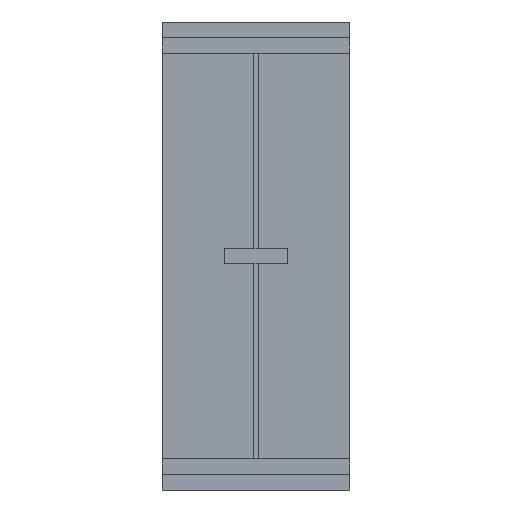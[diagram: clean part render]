
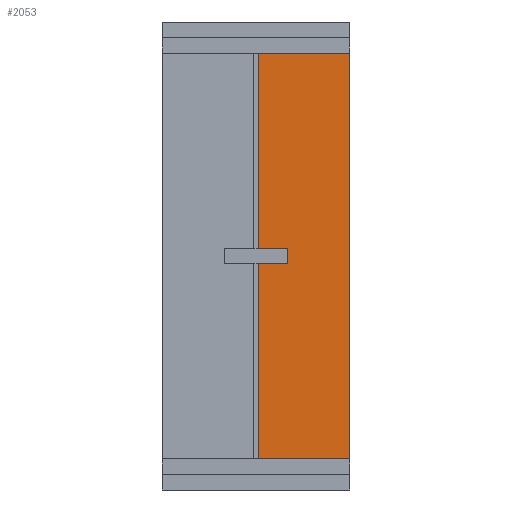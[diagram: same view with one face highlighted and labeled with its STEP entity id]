
A CAD part, front view. The second image highlights one B-rep face of the part: STEP entity #2053.
In plain terms, the highlighted planar face has unit normal (0, -1, 0).
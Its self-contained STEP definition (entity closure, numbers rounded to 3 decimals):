
#1 = VERTEX_POINT ( 'NONE', #2028 ) ;
#10 = EDGE_CURVE ( 'NONE', #2305, #1238, #2679, .T. ) ;
#44 = CARTESIAN_POINT ( 'NONE',  ( 0., 345., 0. ) ) ;
#54 = CARTESIAN_POINT ( 'NONE',  ( 600., 345., 2700. ) ) ;
#104 = EDGE_CURVE ( 'NONE', #167, #1798, #1241, .T. ) ;
#111 = EDGE_CURVE ( 'NONE', #703, #1798, #624, .T. ) ;
#164 = ORIENTED_EDGE ( 'NONE', *, *, #321, .F. ) ;
#167 = VERTEX_POINT ( 'NONE', #1247 ) ;
#236 = DIRECTION ( 'NONE',  ( -1., 0., 0. ) ) ;
#293 = CARTESIAN_POINT ( 'NONE',  ( 15., 345., 1450. ) ) ;
#318 = VECTOR ( 'NONE', #2074, 1000. ) ;
#321 = EDGE_CURVE ( 'NONE', #1959, #1154, #1584, .T. ) ;
#334 = DIRECTION ( 'NONE',  ( 0., 0., -1. ) ) ;
#398 = EDGE_CURVE ( 'NONE', #542, #1959, #1395, .T. ) ;
#471 = VERTEX_POINT ( 'NONE', #2227 ) ;
#497 = VECTOR ( 'NONE', #1521, 1000. ) ;
#542 = VERTEX_POINT ( 'NONE', #1190 ) ;
#566 = LINE ( 'NONE', #1382, #1080 ) ;
#590 = CARTESIAN_POINT ( 'NONE',  ( 15., 345., 65. ) ) ;
#602 = CARTESIAN_POINT ( 'NONE',  ( 200., 345., 1450. ) ) ;
#624 = LINE ( 'NONE', #1259, #1102 ) ;
#652 = CARTESIAN_POINT ( 'NONE',  ( 590., 345., 2735. ) ) ;
#676 = CARTESIAN_POINT ( 'NONE',  ( 15., 345., 65. ) ) ;
#703 = VERTEX_POINT ( 'NONE', #1711 ) ;
#713 = LINE ( 'NONE', #1550, #1541 ) ;
#746 = EDGE_CURVE ( 'NONE', #1, #2661, #713, .T. ) ;
#766 = LINE ( 'NONE', #2379, #2442 ) ;
#802 = ORIENTED_EDGE ( 'NONE', *, *, #746, .F. ) ;
#807 = DIRECTION ( 'NONE',  ( 0., 0., 1. ) ) ;
#822 = CARTESIAN_POINT ( 'NONE',  ( -590., 345., 2735. ) ) ;
#841 = CARTESIAN_POINT ( 'NONE',  ( 200., 345., 1450. ) ) ;
#843 = ORIENTED_EDGE ( 'NONE', *, *, #111, .T. ) ;
#865 = ORIENTED_EDGE ( 'NONE', *, *, #2093, .F. ) ;
#896 = VECTOR ( 'NONE', #2655, 1000. ) ;
#917 = DIRECTION ( 'NONE',  ( 0., 0., -1. ) ) ;
#947 = VECTOR ( 'NONE', #807, 1000. ) ;
#969 = CARTESIAN_POINT ( 'NONE',  ( -590., 345., 65. ) ) ;
#1042 = DIRECTION ( 'NONE',  ( 0., 1., 0. ) ) ;
#1055 = VECTOR ( 'NONE', #917, 1000. ) ;
#1080 = VECTOR ( 'NONE', #1424, 1000. ) ;
#1102 = VECTOR ( 'NONE', #236, 1000. ) ;
#1106 = EDGE_CURVE ( 'NONE', #2661, #542, #2324, .T. ) ;
#1154 = VERTEX_POINT ( 'NONE', #1276 ) ;
#1190 = CARTESIAN_POINT ( 'NONE',  ( 600., 345., 100. ) ) ;
#1208 = CARTESIAN_POINT ( 'NONE',  ( 590., 345., 100. ) ) ;
#1230 = ORIENTED_EDGE ( 'NONE', *, *, #2224, .F. ) ;
#1238 = VERTEX_POINT ( 'NONE', #293 ) ;
#1241 = LINE ( 'NONE', #676, #1454 ) ;
#1247 = CARTESIAN_POINT ( 'NONE',  ( 15., 345., 65. ) ) ;
#1253 = PLANE ( 'NONE',  #1425 ) ;
#1259 = CARTESIAN_POINT ( 'NONE',  ( 200., 345., 1350. ) ) ;
#1276 = CARTESIAN_POINT ( 'NONE',  ( 590., 345., 65. ) ) ;
#1297 = EDGE_CURVE ( 'NONE', #167, #1154, #2385, .T. ) ;
#1382 = CARTESIAN_POINT ( 'NONE',  ( 590., 345., 2800. ) ) ;
#1389 = ORIENTED_EDGE ( 'NONE', *, *, #2428, .F. ) ;
#1395 = LINE ( 'NONE', #2215, #318 ) ;
#1424 = DIRECTION ( 'NONE',  ( 0., 0., -1. ) ) ;
#1425 = AXIS2_PLACEMENT_3D ( 'NONE', #44, #1042, #1705 ) ;
#1454 = VECTOR ( 'NONE', #2301, 1000. ) ;
#1475 = EDGE_CURVE ( 'NONE', #2305, #703, #766, .T. ) ;
#1517 = ORIENTED_EDGE ( 'NONE', *, *, #104, .F. ) ;
#1521 = DIRECTION ( 'NONE',  ( 0., 0., -1. ) ) ;
#1541 = VECTOR ( 'NONE', #2143, 1000. ) ;
#1550 = CARTESIAN_POINT ( 'NONE',  ( 590., 345., 2700. ) ) ;
#1584 = LINE ( 'NONE', #2620, #1055 ) ;
#1598 = ORIENTED_EDGE ( 'NONE', *, *, #1106, .F. ) ;
#1622 = CARTESIAN_POINT ( 'NONE',  ( 15., 345., 1350. ) ) ;
#1646 = VECTOR ( 'NONE', #1925, 1000. ) ;
#1705 = DIRECTION ( 'NONE',  ( 0., 0., 1. ) ) ;
#1711 = CARTESIAN_POINT ( 'NONE',  ( 200., 345., 1350. ) ) ;
#1751 = ORIENTED_EDGE ( 'NONE', *, *, #10, .F. ) ;
#1798 = VERTEX_POINT ( 'NONE', #1622 ) ;
#1878 = FACE_OUTER_BOUND ( 'NONE', #2355, .T. ) ;
#1925 = DIRECTION ( 'NONE',  ( 1., 0., 0. ) ) ;
#1959 = VERTEX_POINT ( 'NONE', #1208 ) ;
#1992 = ORIENTED_EDGE ( 'NONE', *, *, #1475, .T. ) ;
#2028 = CARTESIAN_POINT ( 'NONE',  ( 590., 345., 2700. ) ) ;
#2053 = ADVANCED_FACE ( 'NONE', ( #1878 ), #1253, .F. ) ;
#2074 = DIRECTION ( 'NONE',  ( -1., 0., 0. ) ) ;
#2093 = EDGE_CURVE ( 'NONE', #471, #2359, #2554, .T. ) ;
#2143 = DIRECTION ( 'NONE',  ( 1., 0., 0. ) ) ;
#2215 = CARTESIAN_POINT ( 'NONE',  ( 600., 345., 100. ) ) ;
#2224 = EDGE_CURVE ( 'NONE', #1238, #471, #2658, .T. ) ;
#2227 = CARTESIAN_POINT ( 'NONE',  ( 15., 345., 2735. ) ) ;
#2301 = DIRECTION ( 'NONE',  ( 0., 0., 1. ) ) ;
#2305 = VERTEX_POINT ( 'NONE', #602 ) ;
#2321 = CARTESIAN_POINT ( 'NONE',  ( 600., 345., 2700. ) ) ;
#2324 = LINE ( 'NONE', #54, #497 ) ;
#2355 = EDGE_LOOP ( 'NONE', ( #865, #1230, #1751, #1992, #843, #1517, #2599, #164, #2635, #1598, #802, #1389 ) ) ;
#2359 = VERTEX_POINT ( 'NONE', #652 ) ;
#2379 = CARTESIAN_POINT ( 'NONE',  ( 200., 345., 1450. ) ) ;
#2385 = LINE ( 'NONE', #969, #2652 ) ;
#2401 = DIRECTION ( 'NONE',  ( 1., 0., 0. ) ) ;
#2428 = EDGE_CURVE ( 'NONE', #2359, #1, #566, .T. ) ;
#2442 = VECTOR ( 'NONE', #334, 1000. ) ;
#2554 = LINE ( 'NONE', #822, #1646 ) ;
#2599 = ORIENTED_EDGE ( 'NONE', *, *, #1297, .T. ) ;
#2620 = CARTESIAN_POINT ( 'NONE',  ( 590., 345., 100. ) ) ;
#2635 = ORIENTED_EDGE ( 'NONE', *, *, #398, .F. ) ;
#2652 = VECTOR ( 'NONE', #2401, 1000. ) ;
#2655 = DIRECTION ( 'NONE',  ( -1., 0., 0. ) ) ;
#2658 = LINE ( 'NONE', #590, #947 ) ;
#2661 = VERTEX_POINT ( 'NONE', #2321 ) ;
#2679 = LINE ( 'NONE', #841, #896 ) ;
